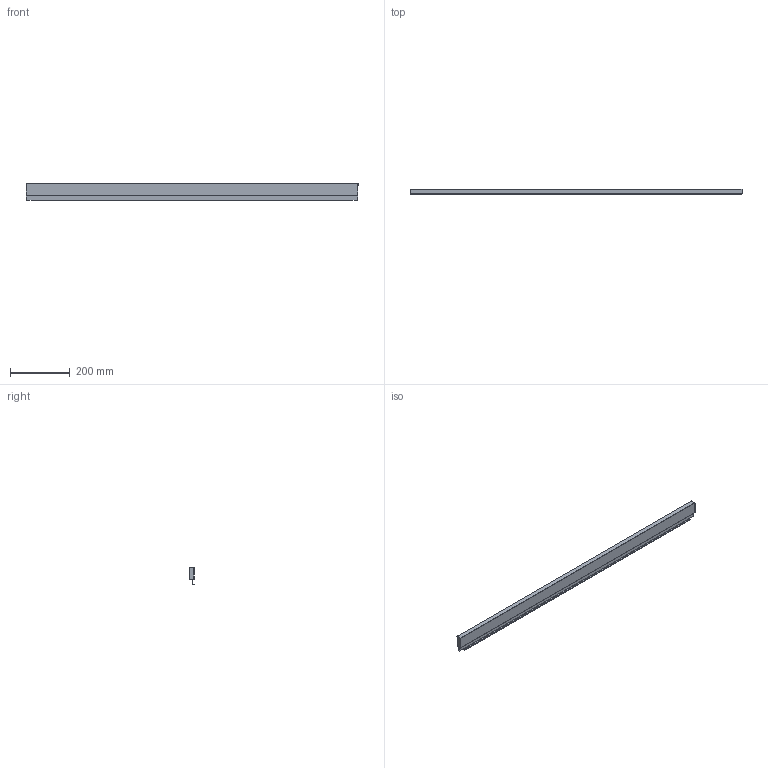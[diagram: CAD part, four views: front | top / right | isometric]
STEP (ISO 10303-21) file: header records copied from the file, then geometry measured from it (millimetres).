
FILE_DESCRIPTION (( 'STEP AP214' ), '1' );
FILE_NAME ('_STRW_H63_KAB_1200.step', '2010-08-24T14:40:53', ( 'grass' ), ( '' ), 'SwSTEP 2.0', 'SolidWorks 2009', '' );
FILE_SCHEMA (( 'AUTOMOTIVE_DESIGN' ));
Length unit declared in the file: millimetre
Products named in the file (1): _STRW_H63_KAB_1200
Bounding box: 1110 x 17 x 58.14 mm (x, y, z)
Volume: 76364.3 mm3; surface area: 192897.1 mm2
Topology: 1 solids, 1 shells, 77 faces, 217 edges, 142 vertices
Faces by surface type: plane 54, cylinder 23
Entity records: 2507 total; most frequent: CARTESIAN_POINT 437, ORIENTED_EDGE 434, DIRECTION 419, EDGE_CURVE 217, LINE 171, VECTOR 171, VERTEX_POINT 142, AXIS2_PLACEMENT_3D 124
